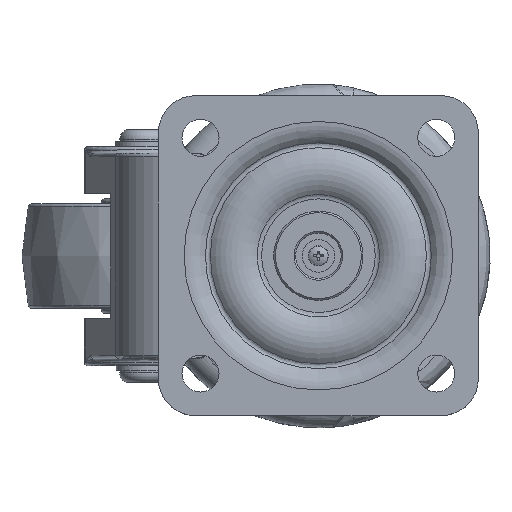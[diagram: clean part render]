
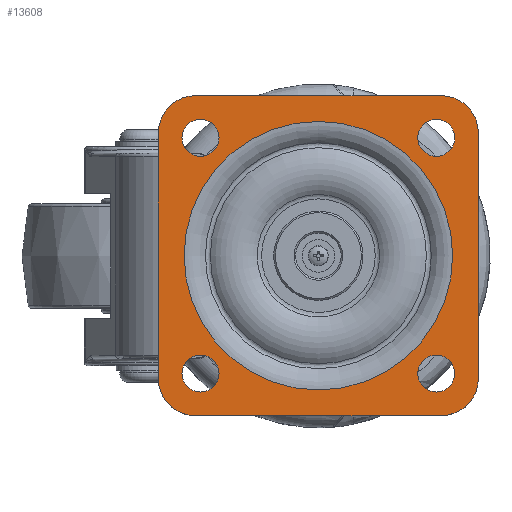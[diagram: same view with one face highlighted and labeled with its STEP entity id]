
A CAD part, top view. The second image highlights one B-rep face of the part: STEP entity #13608.
In plain terms, the highlighted planar face has unit normal (0, 0, 1).
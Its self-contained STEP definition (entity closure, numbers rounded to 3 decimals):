
#13358=CARTESIAN_POINT('',(35.0,29.5,94.1));
#13359=VERTEX_POINT('',#13358);
#13360=CARTESIAN_POINT('',(35.0,35.0,94.1));
#13361=DIRECTION('',(0.0,0.0,-1.0));
#13362=DIRECTION('',(0.0,-1.0,0.0));
#13363=AXIS2_PLACEMENT_3D('',#13360,#13361,#13362);
#13364=CIRCLE('',#13363,5.5);
#13365=EDGE_CURVE('',#13359,#13359,#13364,.T.);
#13386=CARTESIAN_POINT('',(35.0,-40.5,94.1));
#13387=VERTEX_POINT('',#13386);
#13388=CARTESIAN_POINT('',(35.0,-35.0,94.1));
#13389=DIRECTION('',(0.0,0.0,-1.0));
#13390=DIRECTION('',(0.0,-1.0,0.0));
#13391=AXIS2_PLACEMENT_3D('',#13388,#13389,#13390);
#13392=CIRCLE('',#13391,5.5);
#13393=EDGE_CURVE('',#13387,#13387,#13392,.T.);
#13414=CARTESIAN_POINT('',(-35.0,-40.5,94.1));
#13415=VERTEX_POINT('',#13414);
#13416=CARTESIAN_POINT('',(-35.0,-35.0,94.1));
#13417=DIRECTION('',(0.0,0.0,-1.0));
#13418=DIRECTION('',(0.0,-1.0,0.0));
#13419=AXIS2_PLACEMENT_3D('',#13416,#13417,#13418);
#13420=CIRCLE('',#13419,5.5);
#13421=EDGE_CURVE('',#13415,#13415,#13420,.T.);
#13442=CARTESIAN_POINT('',(-35.0,29.5,94.1));
#13443=VERTEX_POINT('',#13442);
#13444=CARTESIAN_POINT('',(-35.0,35.,94.1));
#13445=DIRECTION('',(0.0,0.0,-1.0));
#13446=DIRECTION('',(0.0,-1.0,0.0));
#13447=AXIS2_PLACEMENT_3D('',#13444,#13445,#13446);
#13448=CIRCLE('',#13447,5.5);
#13449=EDGE_CURVE('',#13443,#13443,#13448,.T.);
#13470=CARTESIAN_POINT('',(36.5,47.5,94.1));
#13471=VERTEX_POINT('',#13470);
#13478=CARTESIAN_POINT('',(47.5,36.5,94.1));
#13479=VERTEX_POINT('',#13478);
#13480=CARTESIAN_POINT('',(36.5,36.5,94.1));
#13481=DIRECTION('',(0.0,0.0,-1.));
#13482=DIRECTION('',(0.707,0.707,0.0));
#13483=AXIS2_PLACEMENT_3D('',#13480,#13481,#13482);
#13484=CIRCLE('',#13483,11.0);
#13485=EDGE_CURVE('',#13471,#13479,#13484,.T.);
#13502=CARTESIAN_POINT('',(47.5,-36.5,94.1));
#13503=VERTEX_POINT('',#13502);
#13504=CARTESIAN_POINT('',(47.5,36.5,94.1));
#13505=DIRECTION('',(0.0,-1.0,0.0));
#13506=VECTOR('',#13505,73.);
#13507=LINE('',#13504,#13506);
#13508=EDGE_CURVE('',#13479,#13503,#13507,.T.);
#13527=CARTESIAN_POINT('',(0.,69.938,94.1));
#13528=DIRECTION('',(0.0,0.0,1.0));
#13529=DIRECTION('',(1.0,0.0,0.0));
#13530=AXIS2_PLACEMENT_3D('',#13527,#13528,#13529);
#13531=PLANE('',#13530);
#13532=ORIENTED_EDGE('',*,*,#13485,.F.);
#13533=CARTESIAN_POINT('',(-36.5,47.5,94.1));
#13534=VERTEX_POINT('',#13533);
#13535=CARTESIAN_POINT('',(-36.5,47.5,94.1));
#13536=DIRECTION('',(1.0,0.0,0.0));
#13537=VECTOR('',#13536,73.0);
#13538=LINE('',#13535,#13537);
#13539=EDGE_CURVE('',#13534,#13471,#13538,.T.);
#13540=ORIENTED_EDGE('',*,*,#13539,.F.);
#13541=CARTESIAN_POINT('',(-47.5,36.5,94.1));
#13542=VERTEX_POINT('',#13541);
#13543=CARTESIAN_POINT('',(-36.5,36.5,94.1));
#13544=DIRECTION('',(0.0,0.0,-1.));
#13545=DIRECTION('',(-0.707,0.707,0.0));
#13546=AXIS2_PLACEMENT_3D('',#13543,#13544,#13545);
#13547=CIRCLE('',#13546,11.0);
#13548=EDGE_CURVE('',#13542,#13534,#13547,.T.);
#13549=ORIENTED_EDGE('',*,*,#13548,.F.);
#13550=CARTESIAN_POINT('',(-47.5,-36.5,94.1));
#13551=VERTEX_POINT('',#13550);
#13552=CARTESIAN_POINT('',(-47.5,-36.5,94.1));
#13553=DIRECTION('',(0.0,1.0,0.0));
#13554=VECTOR('',#13553,73.);
#13555=LINE('',#13552,#13554);
#13556=EDGE_CURVE('',#13551,#13542,#13555,.T.);
#13557=ORIENTED_EDGE('',*,*,#13556,.F.);
#13558=CARTESIAN_POINT('',(-36.5,-47.5,94.1));
#13559=VERTEX_POINT('',#13558);
#13560=CARTESIAN_POINT('',(-36.5,-36.5,94.1));
#13561=DIRECTION('',(0.0,0.0,-1.));
#13562=DIRECTION('',(-0.707,-0.707,0.0));
#13563=AXIS2_PLACEMENT_3D('',#13560,#13561,#13562);
#13564=CIRCLE('',#13563,11.0);
#13565=EDGE_CURVE('',#13559,#13551,#13564,.T.);
#13566=ORIENTED_EDGE('',*,*,#13565,.F.);
#13567=CARTESIAN_POINT('',(36.5,-47.5,94.1));
#13568=VERTEX_POINT('',#13567);
#13569=CARTESIAN_POINT('',(36.5,-47.5,94.1));
#13570=DIRECTION('',(-1.0,0.0,0.0));
#13571=VECTOR('',#13570,73.);
#13572=LINE('',#13569,#13571);
#13573=EDGE_CURVE('',#13568,#13559,#13572,.T.);
#13574=ORIENTED_EDGE('',*,*,#13573,.F.);
#13575=CARTESIAN_POINT('',(36.5,-36.5,94.1));
#13576=DIRECTION('',(0.0,0.0,-1.));
#13577=DIRECTION('',(0.707,-0.707,0.0));
#13578=AXIS2_PLACEMENT_3D('',#13575,#13576,#13577);
#13579=CIRCLE('',#13578,11.0);
#13580=EDGE_CURVE('',#13503,#13568,#13579,.T.);
#13581=ORIENTED_EDGE('',*,*,#13580,.F.);
#13582=ORIENTED_EDGE('',*,*,#13508,.F.);
#13583=EDGE_LOOP('',(#13532,#13540,#13549,#13557,#13566,#13574,#13581,#13582));
#13584=FACE_OUTER_BOUND('',#13583,.T.);
#13585=ORIENTED_EDGE('',*,*,#13365,.T.);
#13586=EDGE_LOOP('',(#13585));
#13587=FACE_BOUND('',#13586,.T.);
#13588=ORIENTED_EDGE('',*,*,#13393,.T.);
#13589=EDGE_LOOP('',(#13588));
#13590=FACE_BOUND('',#13589,.T.);
#13591=ORIENTED_EDGE('',*,*,#13421,.T.);
#13592=EDGE_LOOP('',(#13591));
#13593=FACE_BOUND('',#13592,.T.);
#13594=ORIENTED_EDGE('',*,*,#13449,.T.);
#13595=EDGE_LOOP('',(#13594));
#13596=FACE_BOUND('',#13595,.T.);
#13597=CARTESIAN_POINT('',(0.,39.877,94.1));
#13598=VERTEX_POINT('',#13597);
#13599=CARTESIAN_POINT('',(0.,0.,94.1));
#13600=DIRECTION('',(0.0,0.0,-1.0));
#13601=DIRECTION('',(0.0,1.0,0.0));
#13602=AXIS2_PLACEMENT_3D('',#13599,#13600,#13601);
#13603=CIRCLE('',#13602,39.877);
#13604=EDGE_CURVE('',#13598,#13598,#13603,.T.);
#13605=ORIENTED_EDGE('',*,*,#13604,.T.);
#13606=EDGE_LOOP('',(#13605));
#13607=FACE_BOUND('',#13606,.T.);
#13608=ADVANCED_FACE('',(#13584,#13587,#13590,#13593,#13596,#13607),#13531,.T.);
